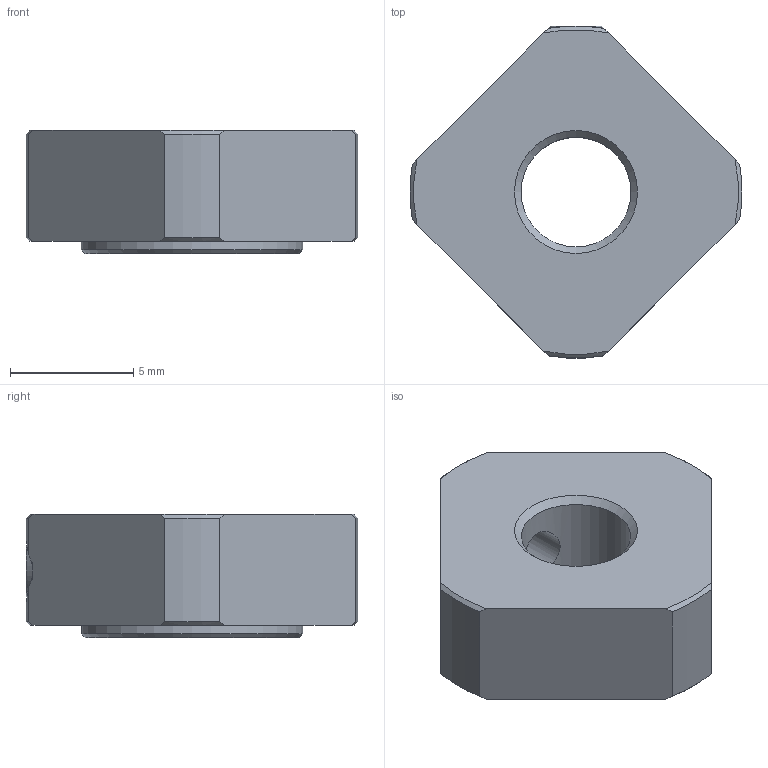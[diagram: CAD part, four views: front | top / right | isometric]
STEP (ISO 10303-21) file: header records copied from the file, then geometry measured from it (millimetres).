
FILE_DESCRIPTION(/* description */ ('STEP AP203'),/* implementation_level */ '2;1');
FILE_NAME(/* name */ 'RN 5',/* time_stamp */ '2025-06-11T07:40:32+02:00',/* author */ ('License CC BY-ND 4.0'),/* organization */ ('CADENAS'),/* preprocessor_version */ 'ST-DEVELOPER v19.3',/* originating_system */ 'PARTsolutions',/* authorisation */ ' ');
FILE_SCHEMA (('CONFIG_CONTROL_DESIGN'));
Length unit declared in the file: millimetre
Products named in the file (1): RN 5
Bounding box: 13.48 x 13.49 x 5 mm (x, y, z)
Volume: 469.7 mm3; surface area: 476 mm2
Topology: 1 solids, 1 shells, 37 faces, 93 edges, 61 vertices
Faces by surface type: plane 16, cone 12, cylinder 9
Full cylindrical faces by diameter (mm): 2.113 x1, 2.6 x1, 4.459 x1, 9 x1
Entity records: 1115 total; most frequent: CARTESIAN_POINT 246, DIRECTION 168, ORIENTED_EDGE 166, EDGE_CURVE 83, AXIS2_PLACEMENT_3D 66, VERTEX_POINT 59, EDGE_LOOP 50, FACE_BOUND 50
